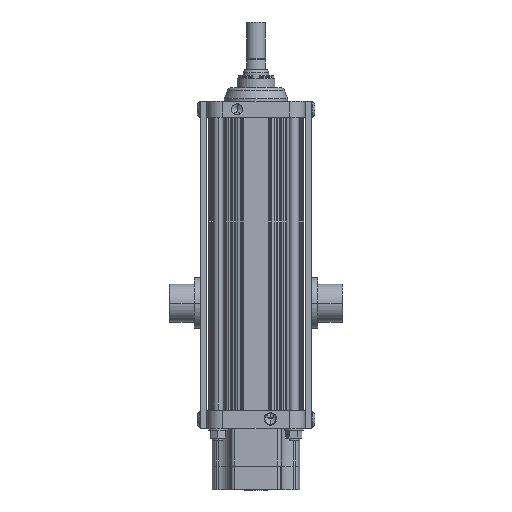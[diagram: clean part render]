
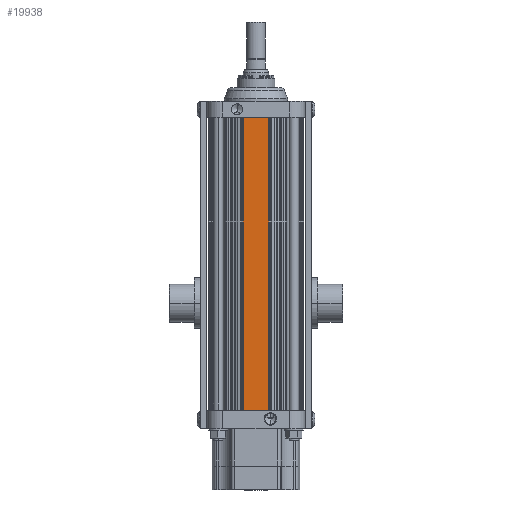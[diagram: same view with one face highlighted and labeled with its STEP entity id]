
A CAD part, front view. The second image highlights one B-rep face of the part: STEP entity #19938.
In plain terms, the highlighted planar face has unit normal (0, -1, 0).
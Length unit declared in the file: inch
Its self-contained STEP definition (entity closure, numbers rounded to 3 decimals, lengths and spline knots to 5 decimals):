
#8018 = VERTEX_POINT ( 'NONE', #26399 ) ;
#8020 = EDGE_CURVE ( 'NONE', #8018, #8021, #26398, .T. ) ;
#8021 = VERTEX_POINT ( 'NONE', #26394 ) ;
#19099 = EDGE_CURVE ( 'NONE', #26272, #19399, #27377, .T. ) ;
#19399 = VERTEX_POINT ( 'NONE', #27837 ) ;
#19938 = ADVANCED_FACE ( 'NONE', ( #28620 ), #28619, .T. ) ;
#19939 = EDGE_LOOP ( 'NONE', ( #19940, #19941, #19943, #19944 ) ) ;
#19940 = ORIENTED_EDGE ( 'NONE', *, *, #8020, .F. ) ;
#19941 = ORIENTED_EDGE ( 'NONE', *, *, #19942, .F. ) ;
#19942 = EDGE_CURVE ( 'NONE', #26272, #8018, #28614, .T. ) ;
#19943 = ORIENTED_EDGE ( 'NONE', *, *, #19099, .T. ) ;
#19944 = ORIENTED_EDGE ( 'NONE', *, *, #19960, .T. ) ;
#19960 = EDGE_CURVE ( 'NONE', #19399, #8021, #28652, .T. ) ;
#26272 = VERTEX_POINT ( 'NONE', #39843 ) ;
#26394 = CARTESIAN_POINT ( 'NONE',  ( -0.5, -1.9, 0. ) ) ;
#26395 = DIRECTION ( 'NONE',  ( -1., 0., 0. ) ) ;
#26396 = VECTOR ( 'NONE', #26395, 39.37008 ) ;
#26397 = CARTESIAN_POINT ( 'NONE',  ( 0.5, -1.9, 0. ) ) ;
#26398 = LINE ( 'NONE', #26397, #26396 ) ;
#26399 = CARTESIAN_POINT ( 'NONE',  ( 0.5, -1.9, 0. ) ) ;
#27374 = DIRECTION ( 'NONE',  ( -1., 0., 0. ) ) ;
#27375 = VECTOR ( 'NONE', #27374, 39.37008 ) ;
#27376 = CARTESIAN_POINT ( 'NONE',  ( 0.5, -1.9, 11.6102 ) ) ;
#27377 = LINE ( 'NONE', #27376, #27375 ) ;
#27837 = CARTESIAN_POINT ( 'NONE',  ( -0.5, -1.9, 11.6102 ) ) ;
#28614 = LINE ( 'NONE', #28676, #28675 ) ;
#28615 = DIRECTION ( 'NONE',  ( 0., 0., -1. ) ) ;
#28616 = DIRECTION ( 'NONE',  ( 0., -1., 0. ) ) ;
#28617 = CARTESIAN_POINT ( 'NONE',  ( 0.5, -1.9, 11.6102 ) ) ;
#28618 = AXIS2_PLACEMENT_3D ( 'NONE', #28617, #28616, #28615 ) ;
#28619 = PLANE ( 'NONE',  #28618 ) ;
#28620 = FACE_OUTER_BOUND ( 'NONE', #19939, .T. ) ;
#28649 = DIRECTION ( 'NONE',  ( 0., 0., -1. ) ) ;
#28650 = VECTOR ( 'NONE', #28649, 39.37008 ) ;
#28651 = CARTESIAN_POINT ( 'NONE',  ( -0.5, -1.9, 11.6102 ) ) ;
#28652 = LINE ( 'NONE', #28651, #28650 ) ;
#28674 = DIRECTION ( 'NONE',  ( 0., 0., -1. ) ) ;
#28675 = VECTOR ( 'NONE', #28674, 39.37008 ) ;
#28676 = CARTESIAN_POINT ( 'NONE',  ( 0.5, -1.9, 11.6102 ) ) ;
#39843 = CARTESIAN_POINT ( 'NONE',  ( 0.5, -1.9, 11.6102 ) ) ;
